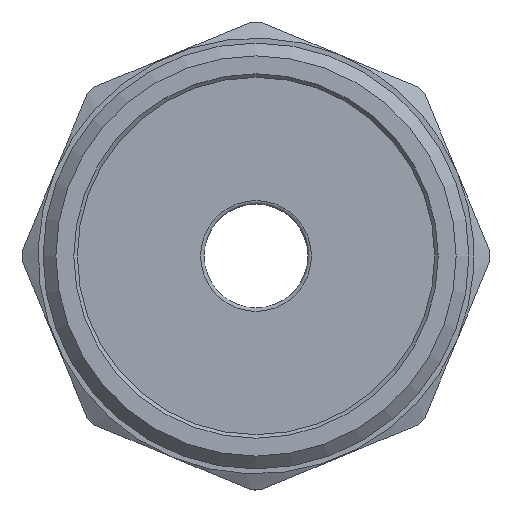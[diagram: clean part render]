
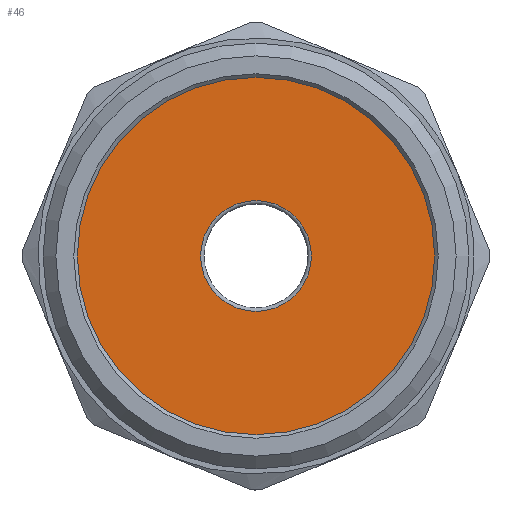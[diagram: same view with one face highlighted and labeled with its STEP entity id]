
A CAD part, front view. The second image highlights one B-rep face of the part: STEP entity #46.
In plain terms, the highlighted planar face has unit normal (0, -1, 0).
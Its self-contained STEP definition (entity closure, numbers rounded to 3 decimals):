
#46=ADVANCED_FACE('',(#102,#104),#106,.T.);
#102=FACE_BOUND('',#103,.T.);
#103=EDGE_LOOP('',(#396));
#104=FACE_BOUND('',#105,.T.);
#105=EDGE_LOOP('',(#397));
#106=PLANE('',#107);
#107=AXIS2_PLACEMENT_3D('',#108,#109,#110);
#108=CARTESIAN_POINT('',(0.,1.,0.));
#109=DIRECTION('',(0.,-1.,0.));
#110=DIRECTION('',(0.,0.,-1.));
#396=ORIENTED_EDGE('',*,*,#558,.T.);
#397=ORIENTED_EDGE('',*,*,#559,.F.);
#558=EDGE_CURVE('',#643,#643,#644,.T.);
#559=EDGE_CURVE('',#645,#645,#646,.F.);
#643=VERTEX_POINT('',#791);
#644=CIRCLE('',#792,25.);
#645=VERTEX_POINT('',#796);
#646=CIRCLE('',#797,7.75);
#791=CARTESIAN_POINT('',(0.,1.,-25.));
#792=AXIS2_PLACEMENT_3D('',#793,#794,#795);
#793=CARTESIAN_POINT('',(0.,1.,0.));
#794=DIRECTION('',(0.,-1.,0.));
#795=DIRECTION('',(0.,0.,-1.));
#796=CARTESIAN_POINT('',(0.,1.,7.75));
#797=AXIS2_PLACEMENT_3D('',#798,#799,#800);
#798=CARTESIAN_POINT('',(0.,1.,0.));
#799=DIRECTION('',(0.,1.,0.));
#800=DIRECTION('',(0.,0.,1.));
